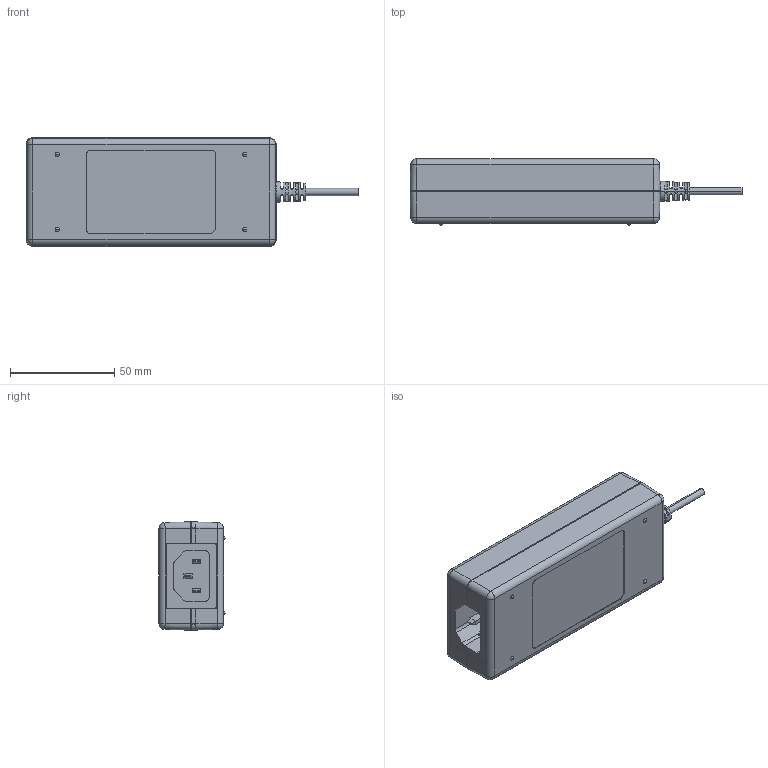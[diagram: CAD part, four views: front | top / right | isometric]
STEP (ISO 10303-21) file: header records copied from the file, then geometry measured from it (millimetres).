
FILE_DESCRIPTION (( 'STEP AP214' ), '1' );
FILE_NAME ('TR70MA組合圖(For客戶).STEP', '2022-07-29T02:51:37', ( '' ), ( '' ), 'SwSTEP 2.0', 'SolidWorks 2020', '' );
FILE_SCHEMA (( 'AUTOMOTIVE_DESIGN' ));
Length unit declared in the file: millimetre
Products named in the file (15): TR70M 散熱片1 G6612460123 (M-B141-00-J)-1070409; C14插頭960823; TR70MA絕緣片 G612912B104-1070423; TR70M 散熱片下蓋 G6612560123 (M-B147-00-J)-1070615; TRG45下蓋(M-B315-02-M)G5688002100 (AC3100); TR70 SR+線材 示意圖 103,03,14; LED燈罩(M-B145-03-M)G5646245130; TR70M&TRE70 散熱片上蓋 G6612550123 (M-B146-00-J)-1070615; TR70MA組合圖(For客戶); TRG45上蓋(M-B314-02-M)G5688001100 (AC3100); TR70M 散熱片2 G6612470123 (M-B142-00-J)-1070126; (ｰﾑｦﾒ)TR70M PCBｪO-1061113; ､鎹IN-(ｩl)-1070104
Assembly tree (15 placements, depth 3):
  TR70MA組合圖(For客戶)
    TRG45下蓋(M-B315-02-M)G5688002100 (AC3100)
    TRG45上蓋(M-B314-02-M)G5688001100 (AC3100)
    TR70M 散熱片1 G6612460123 (M-B141-00-J)-1070409
      TR70M 散熱片1 G6612460123 (M-B141-00-J)-1070409
      ､鎹IN-(ｩl)-1070104
    TR70M 散熱片2 G6612470123 (M-B142-00-J)-1070126
      TR70M 散熱片2 G6612470123 (M-B142-00-J)-1070126
      ､鎹IN-(ｩl)-1070104
    LED燈罩(M-B145-03-M)G5646245130
    (ｰﾑｦﾒ)TR70M PCBｪO-1061113
    TR70M&TRE70 散熱片上蓋 G6612550123 (M-B146-00-J)-1070615
    TR70M 散熱片下蓋 G6612560123 (M-B147-00-J)-1070615
    C14插頭960823
    TR70MA絕緣片 G612912B104-1070423
    TR70 SR+線材 示意圖 103,03,14
Bounding box: 159.3 x 31.7 x 52 mm (x, y, z)
Volume: 63269.9 mm3; surface area: 125456.1 mm2
Topology: 13 solids, 13 shells, 1148 faces, 3020 edges, 1942 vertices
Faces by surface type: plane 658, cylinder 389, cone 41, sphere 28, bspline 22, torus 10
Entity records: 42027 total; most frequent: CARTESIAN_POINT 13572, ORIENTED_EDGE 5832, DIRECTION 5430, EDGE_CURVE 2916, LINE 2006, VECTOR 2006, VERTEX_POINT 1886, AXIS2_PLACEMENT_3D 1712
